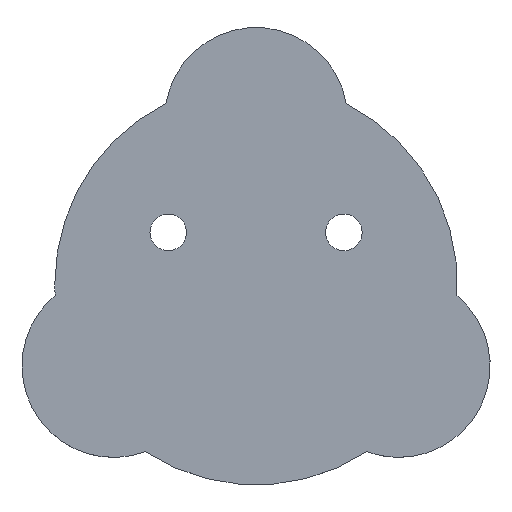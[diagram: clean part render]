
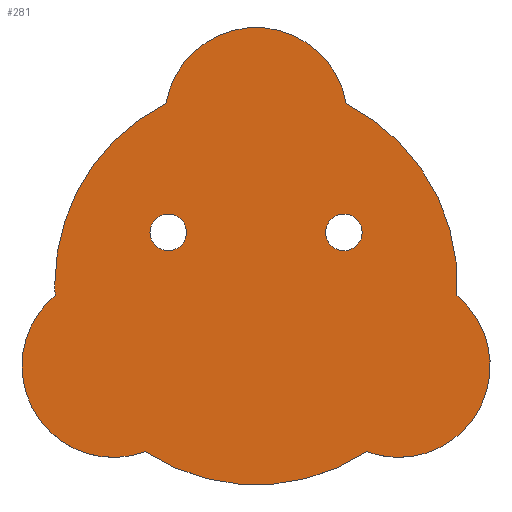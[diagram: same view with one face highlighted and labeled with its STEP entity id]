
A CAD part, top view. The second image highlights one B-rep face of the part: STEP entity #281.
In plain terms, the highlighted planar face has unit normal (0, 0, 1).
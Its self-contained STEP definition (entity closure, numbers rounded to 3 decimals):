
#5 = AXIS2_PLACEMENT_3D ( 'NONE', #12, #482, #247 ) ;
#12 = CARTESIAN_POINT ( 'NONE',  ( -446.117, 1329.88, -2000. ) ) ;
#21 = VERTEX_POINT ( 'NONE', #249 ) ;
#29 = DIRECTION ( 'NONE',  ( 0., 0., 1. ) ) ;
#31 = CIRCLE ( 'NONE', #346, 2.5 ) ;
#33 = CIRCLE ( 'NONE', #120, 12.5 ) ;
#34 = EDGE_CURVE ( 'NONE', #264, #358, #450, .T. ) ;
#36 = CARTESIAN_POINT ( 'NONE',  ( -443.859, 1317.255, -2000. ) ) ;
#39 = VERTEX_POINT ( 'NONE', #160 ) ;
#45 = CARTESIAN_POINT ( 'NONE',  ( -446.117, 1329.88, -2000. ) ) ;
#49 = DIRECTION ( 'NONE',  ( 0., 0., 1. ) ) ;
#50 = ORIENTED_EDGE ( 'NONE', *, *, #172, .F. ) ;
#62 = CARTESIAN_POINT ( 'NONE',  ( -434.117, 1322.88, -2000. ) ) ;
#68 = CIRCLE ( 'NONE', #326, 12.5 ) ;
#81 = CARTESIAN_POINT ( 'NONE',  ( -466.102, 1311.63, -2000. ) ) ;
#94 = DIRECTION ( 'NONE',  ( 0., 0., 1. ) ) ;
#97 = EDGE_CURVE ( 'NONE', #298, #21, #213, .T. ) ;
#98 = DIRECTION ( 'NONE',  ( 1., 0., 0. ) ) ;
#99 = ORIENTED_EDGE ( 'NONE', *, *, #265, .F. ) ;
#102 = DIRECTION ( 'NONE',  ( 0., 0., 1. ) ) ;
#107 = CARTESIAN_POINT ( 'NONE',  ( -414.631, 1311.63, -2000. ) ) ;
#111 = FACE_BOUND ( 'NONE', #142, .T. ) ;
#112 = AXIS2_PLACEMENT_3D ( 'NONE', #62, #94, #423 ) ;
#114 = CARTESIAN_POINT ( 'NONE',  ( -418.989, 1299.915, -2000. ) ) ;
#120 = AXIS2_PLACEMENT_3D ( 'NONE', #107, #102, #256 ) ;
#121 = EDGE_CURVE ( 'NONE', #235, #151, #268, .T. ) ;
#127 = EDGE_CURVE ( 'NONE', #316, #298, #33, .T. ) ;
#129 = CIRCLE ( 'NONE', #481, 2.5 ) ;
#136 = EDGE_CURVE ( 'NONE', #151, #316, #356, .T. ) ;
#140 = CARTESIAN_POINT ( 'NONE',  ( -446.442, 1347.463, -2000. ) ) ;
#142 = EDGE_LOOP ( 'NONE', ( #479, #99 ) ) ;
#146 = ORIENTED_EDGE ( 'NONE', *, *, #97, .T. ) ;
#150 = DIRECTION ( 'NONE',  ( 0., 0., 1. ) ) ;
#151 = VERTEX_POINT ( 'NONE', #380 ) ;
#154 = VERTEX_POINT ( 'NONE', #140 ) ;
#156 = ORIENTED_EDGE ( 'NONE', *, *, #257, .T. ) ;
#160 = CARTESIAN_POINT ( 'NONE',  ( -443.617, 1329.88, -2000. ) ) ;
#163 = EDGE_CURVE ( 'NONE', #154, #264, #184, .T. ) ;
#172 = EDGE_CURVE ( 'NONE', #198, #343, #129, .T. ) ;
#179 = CARTESIAN_POINT ( 'NONE',  ( -434.117, 1322.88, -2000. ) ) ;
#180 = ORIENTED_EDGE ( 'NONE', *, *, #34, .T. ) ;
#184 = CIRCLE ( 'NONE', #112, 27.5 ) ;
#185 = PLANE ( 'NONE',  #286 ) ;
#190 = CARTESIAN_POINT ( 'NONE',  ( -461.617, 1322.88, -2000. ) ) ;
#197 = DIRECTION ( 'NONE',  ( 1., 0., 0. ) ) ;
#198 = VERTEX_POINT ( 'NONE', #384 ) ;
#200 = DIRECTION ( 'NONE',  ( 1., 0., 0. ) ) ;
#204 = AXIS2_PLACEMENT_3D ( 'NONE', #209, #291, #200 ) ;
#207 = EDGE_LOOP ( 'NONE', ( #470, #50 ) ) ;
#209 = CARTESIAN_POINT ( 'NONE',  ( -434.117, 1322.88, -2000. ) ) ;
#213 = CIRCLE ( 'NONE', #277, 27.5 ) ;
#225 = DIRECTION ( 'NONE',  ( 1., 0., 0. ) ) ;
#226 = FACE_OUTER_BOUND ( 'NONE', #351, .T. ) ;
#227 = AXIS2_PLACEMENT_3D ( 'NONE', #271, #357, #395 ) ;
#235 = VERTEX_POINT ( 'NONE', #81 ) ;
#245 = CARTESIAN_POINT ( 'NONE',  ( -461.569, 1321.262, -2000. ) ) ;
#247 = DIRECTION ( 'NONE',  ( 1., 0., 0. ) ) ;
#249 = CARTESIAN_POINT ( 'NONE',  ( -421.791, 1347.463, -2000. ) ) ;
#256 = DIRECTION ( 'NONE',  ( 1., 0., 0. ) ) ;
#257 = EDGE_CURVE ( 'NONE', #21, #154, #494, .T. ) ;
#264 = VERTEX_POINT ( 'NONE', #190 ) ;
#265 = EDGE_CURVE ( 'NONE', #39, #412, #31, .T. ) ;
#268 = CIRCLE ( 'NONE', #348, 12.5 ) ;
#271 = CARTESIAN_POINT ( 'NONE',  ( -434.117, 1345.38, -2000. ) ) ;
#277 = AXIS2_PLACEMENT_3D ( 'NONE', #179, #460, #98 ) ;
#281 = ADVANCED_FACE ( 'NONE', ( #359, #226, #111 ), #185, .T. ) ;
#286 = AXIS2_PLACEMENT_3D ( 'NONE', #36, #150, #505 ) ;
#291 = DIRECTION ( 'NONE',  ( 0., 0., 1. ) ) ;
#298 = VERTEX_POINT ( 'NONE', #430 ) ;
#310 = EDGE_CURVE ( 'NONE', #358, #235, #68, .T. ) ;
#316 = VERTEX_POINT ( 'NONE', #114 ) ;
#318 = CIRCLE ( 'NONE', #5, 2.5 ) ;
#326 = AXIS2_PLACEMENT_3D ( 'NONE', #393, #353, #508 ) ;
#327 = DIRECTION ( 'NONE',  ( 1., 0., 0. ) ) ;
#334 = EDGE_CURVE ( 'NONE', #412, #39, #318, .T. ) ;
#336 = AXIS2_PLACEMENT_3D ( 'NONE', #451, #49, #327 ) ;
#342 = DIRECTION ( 'NONE',  ( 0., 0., 1. ) ) ;
#343 = VERTEX_POINT ( 'NONE', #407 ) ;
#346 = AXIS2_PLACEMENT_3D ( 'NONE', #45, #512, #197 ) ;
#348 = AXIS2_PLACEMENT_3D ( 'NONE', #418, #501, #225 ) ;
#351 = EDGE_LOOP ( 'NONE', ( #503, #389, #432, #443, #146, #156, #434, #180 ) ) ;
#353 = DIRECTION ( 'NONE',  ( 0., 0., 1. ) ) ;
#356 = CIRCLE ( 'NONE', #415, 27.5 ) ;
#357 = DIRECTION ( 'NONE',  ( 0., 0., 1. ) ) ;
#358 = VERTEX_POINT ( 'NONE', #245 ) ;
#359 = FACE_BOUND ( 'NONE', #207, .T. ) ;
#375 = CARTESIAN_POINT ( 'NONE',  ( -434.117, 1322.88, -2000. ) ) ;
#376 = DIRECTION ( 'NONE',  ( 1., 0., 0. ) ) ;
#380 = CARTESIAN_POINT ( 'NONE',  ( -449.244, 1299.915, -2000. ) ) ;
#384 = CARTESIAN_POINT ( 'NONE',  ( -419.617, 1329.88, -2000. ) ) ;
#389 = ORIENTED_EDGE ( 'NONE', *, *, #121, .T. ) ;
#393 = CARTESIAN_POINT ( 'NONE',  ( -453.602, 1311.63, -2000. ) ) ;
#395 = DIRECTION ( 'NONE',  ( 1., 0., 0. ) ) ;
#407 = CARTESIAN_POINT ( 'NONE',  ( -424.617, 1329.88, -2000. ) ) ;
#412 = VERTEX_POINT ( 'NONE', #478 ) ;
#415 = AXIS2_PLACEMENT_3D ( 'NONE', #375, #29, #462 ) ;
#418 = CARTESIAN_POINT ( 'NONE',  ( -453.602, 1311.63, -2000. ) ) ;
#423 = DIRECTION ( 'NONE',  ( 1., 0., 0. ) ) ;
#430 = CARTESIAN_POINT ( 'NONE',  ( -406.664, 1321.262, -2000. ) ) ;
#432 = ORIENTED_EDGE ( 'NONE', *, *, #136, .T. ) ;
#434 = ORIENTED_EDGE ( 'NONE', *, *, #163, .T. ) ;
#440 = EDGE_CURVE ( 'NONE', #343, #198, #509, .T. ) ;
#443 = ORIENTED_EDGE ( 'NONE', *, *, #127, .T. ) ;
#450 = CIRCLE ( 'NONE', #204, 27.5 ) ;
#451 = CARTESIAN_POINT ( 'NONE',  ( -422.117, 1329.88, -2000. ) ) ;
#460 = DIRECTION ( 'NONE',  ( 0., 0., 1. ) ) ;
#462 = DIRECTION ( 'NONE',  ( 1., 0., 0. ) ) ;
#470 = ORIENTED_EDGE ( 'NONE', *, *, #440, .F. ) ;
#478 = CARTESIAN_POINT ( 'NONE',  ( -448.617, 1329.88, -2000. ) ) ;
#479 = ORIENTED_EDGE ( 'NONE', *, *, #334, .F. ) ;
#481 = AXIS2_PLACEMENT_3D ( 'NONE', #498, #342, #376 ) ;
#482 = DIRECTION ( 'NONE',  ( 0., 0., 1. ) ) ;
#494 = CIRCLE ( 'NONE', #227, 12.5 ) ;
#498 = CARTESIAN_POINT ( 'NONE',  ( -422.117, 1329.88, -2000. ) ) ;
#501 = DIRECTION ( 'NONE',  ( 0., 0., 1. ) ) ;
#503 = ORIENTED_EDGE ( 'NONE', *, *, #310, .T. ) ;
#505 = DIRECTION ( 'NONE',  ( 1., 0., 0. ) ) ;
#508 = DIRECTION ( 'NONE',  ( 1., 0., 0. ) ) ;
#509 = CIRCLE ( 'NONE', #336, 2.5 ) ;
#512 = DIRECTION ( 'NONE',  ( 0., 0., 1. ) ) ;
